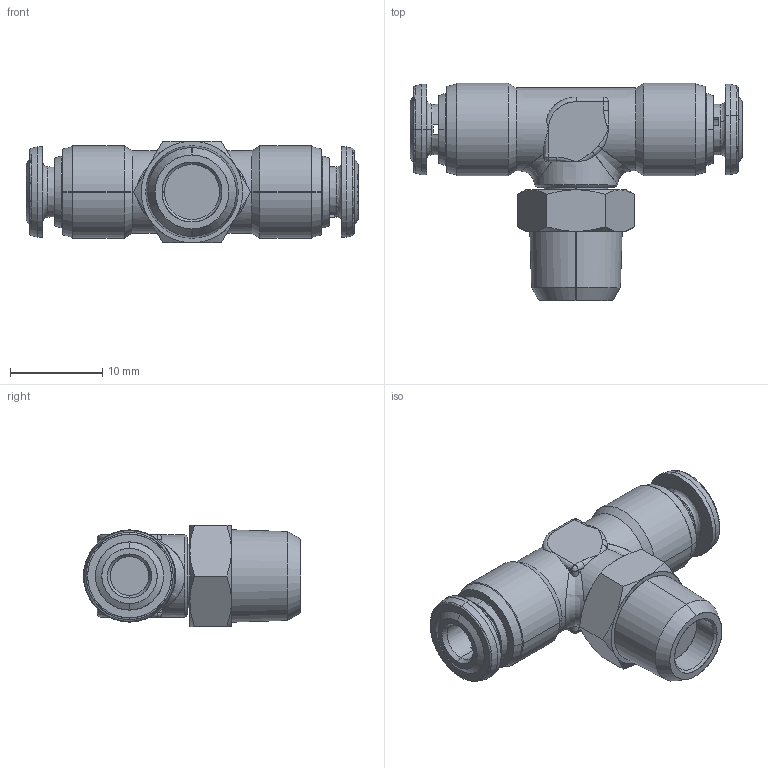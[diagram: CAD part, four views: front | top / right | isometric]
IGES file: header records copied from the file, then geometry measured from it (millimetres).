
Start section: SolidWorks IGES file using analytic representation for surfaces
Global section: file name: K:\Disegni Esecutivi\Serie 60000 inox 316\ASSIEMI_60000\60210\ASSIEMI_PIENI_60210\6021000001.IGS; native system: SolidWorks 2008; preprocessor: SolidWorks 2008; author: cad02; date: 080305.150613; units: millimetre
Bounding box: 36 x 23.55 x 11 mm (x, y, z)
Surface area: 2163.7 mm2 (no closed solid volume)
Topology: 0 solids, 0 shells, 181 faces, 2216 edges, 2204 vertices
Faces by surface type: revolution 107, bspline 74
